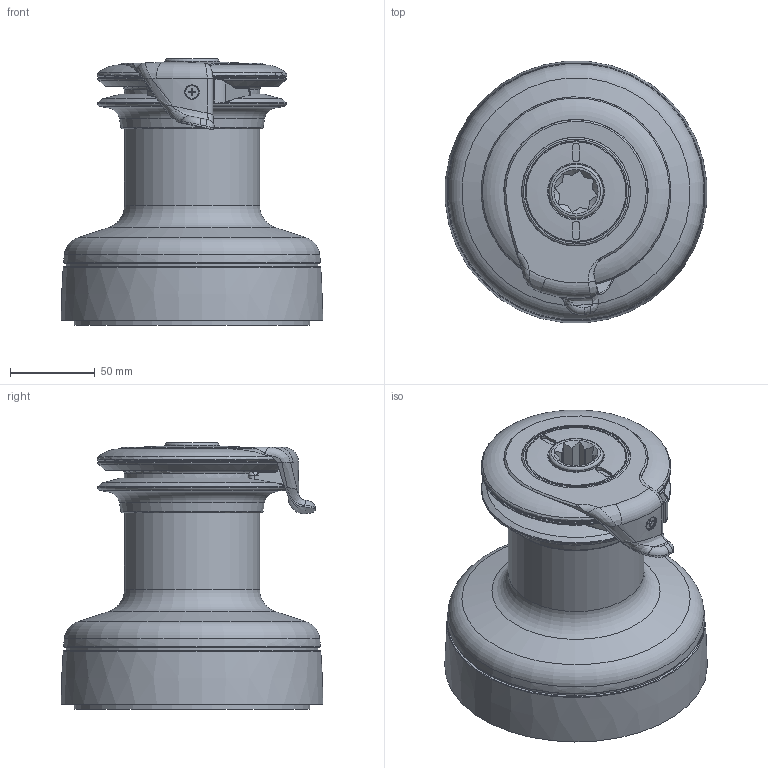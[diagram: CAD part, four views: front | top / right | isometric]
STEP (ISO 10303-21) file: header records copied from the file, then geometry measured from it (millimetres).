
FILE_DESCRIPTION(/* description */ (''),/* implementation_level */ '2;1');
FILE_NAME(/* name */ '\\SERVER2K12\Disegni CAD\Cad Library\3D - STP\Winches\XT40.stp',/* time_stamp */ '2019-10-29T08:57:25+01:00',/* author */ ('gianni'),/* organization */ (''),/* preprocessor_version */ 'ST-DEVELOPER v16.5',/* originating_system */ 'Autodesk Inventor 2017',/* authorisation */ '');
FILE_SCHEMA (('AUTOMOTIVE_DESIGN { 1 0 10303 214 3 1 1 }'));
Length unit declared in the file: millimetre
Products named in the file (1): 19102900
Bounding box: 154.52 x 154.52 x 157.3 mm (x, y, z)
Volume: 1586784.1 mm3; surface area: 121778.9 mm2
Topology: 1 solids, 1 shells, 298 faces, 741 edges, 462 vertices
Faces by surface type: cylinder 90, plane 82, bspline 55, torus 39, cone 28, sphere 4
Full cylindrical faces by diameter (mm): 7.5 x1, 8.2 x5, 8.5 x1, 11.6 x3, 12.5 x3, 31.92 x1, 32.5 x1, 59.7 x1, 60 x1, 64.3 x1, 73 x1, 80 x2, 112 x3, 139 x1, 149 x1
Entity records: 10836 total; most frequent: CARTESIAN_POINT 4247, DIRECTION 1342, ORIENTED_EDGE 1340, EDGE_CURVE 670, AXIS2_PLACEMENT_3D 582, VERTEX_POINT 450, EDGE_LOOP 384, CIRCLE 299
